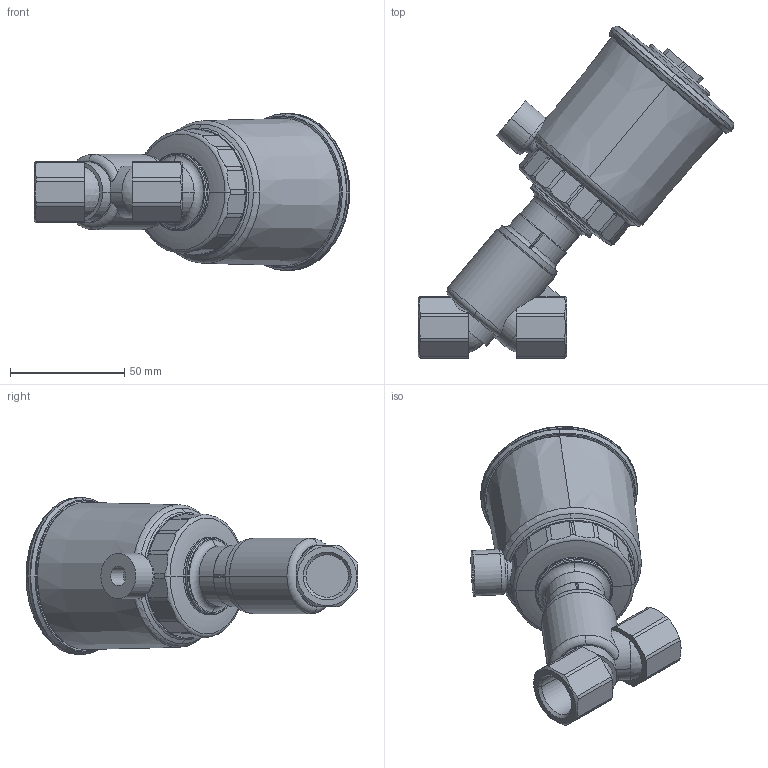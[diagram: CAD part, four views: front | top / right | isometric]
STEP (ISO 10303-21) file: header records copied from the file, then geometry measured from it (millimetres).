
FILE_DESCRIPTION(('STEP AP203'),'1');
FILE_NAME('C:\Documents and Settings\Operator\Ìîè äîêóìåíòû\238 series\Solenoid valve SC E238A001.stp',' ',(' '),(' '),'XStep 1.0',' ',' ');
FILE_SCHEMA(('CONFIG_CONTROL_DESIGN'));
Length unit declared in the file: millimetre
Products named in the file (1): 1
Bounding box: 138.27 x 145.5 x 69 mm (x, y, z)
Volume: 304214.5 mm3; surface area: 36383.9 mm2
Topology: 1 solids, 1 shells, 233 faces, 651 edges, 428 vertices
Faces by surface type: plane 79, cylinder 72, torus 59, cone 21, sphere 2
Entity records: 8871 total; most frequent: CARTESIAN_POINT 2807, ORIENTED_EDGE 1302, DIRECTION 1291, EDGE_CURVE 651, AXIS2_PLACEMENT_3D 526, VERTEX_POINT 428, CIRCLE 278, EDGE_LOOP 241
